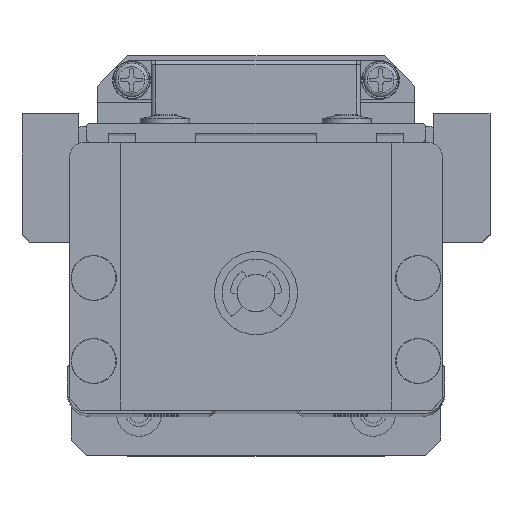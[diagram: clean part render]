
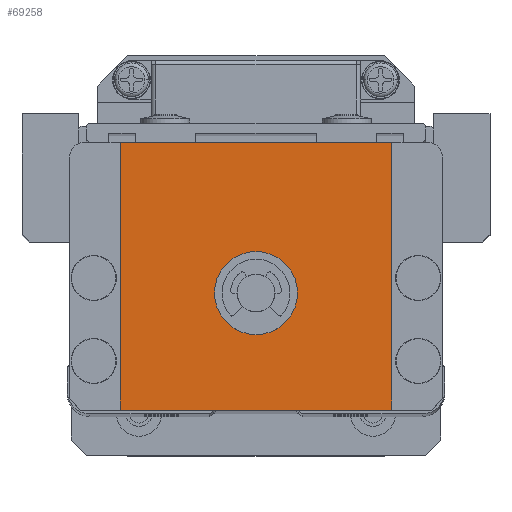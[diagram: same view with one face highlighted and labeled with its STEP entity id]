
A CAD part, top view. The second image highlights one B-rep face of the part: STEP entity #69258.
In plain terms, the highlighted planar face has unit normal (0, 0, 1) as drawn and (1, 0, 0) by its records, which use the part's own axes.
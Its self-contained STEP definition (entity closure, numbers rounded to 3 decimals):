
#531 = CARTESIAN_POINT ( 'NONE',  ( 210., 0., 0. ) ) ;
#1022 = DIRECTION ( 'NONE',  ( 0., 0., 1. ) ) ;
#4802 = LINE ( 'NONE', #54894, #36724 ) ;
#5396 = VECTOR ( 'NONE', #21981, 1000. ) ;
#5533 = CARTESIAN_POINT ( 'NONE',  ( 210., 20., 18. ) ) ;
#5550 = ORIENTED_EDGE ( 'NONE', *, *, #28450, .T. ) ;
#6125 = EDGE_CURVE ( 'NONE', #68393, #53728, #63919, .T. ) ;
#6956 = DIRECTION ( 'NONE',  ( 0., 0., -1. ) ) ;
#8107 = VERTEX_POINT ( 'NONE', #32125 ) ;
#9409 = VERTEX_POINT ( 'NONE', #30914 ) ;
#11109 = DIRECTION ( 'NONE',  ( 0., 0., 1. ) ) ;
#12142 = VECTOR ( 'NONE', #64102, 1000. ) ;
#15363 = ORIENTED_EDGE ( 'NONE', *, *, #36154, .T. ) ;
#18349 = ORIENTED_EDGE ( 'NONE', *, *, #6125, .T. ) ;
#21981 = DIRECTION ( 'NONE',  ( 0., -1., 0. ) ) ;
#22379 = LINE ( 'NONE', #34531, #5396 ) ;
#24777 = CARTESIAN_POINT ( 'NONE',  ( 210., 0., 5.5 ) ) ;
#25038 = AXIS2_PLACEMENT_3D ( 'NONE', #531, #45114, #6956 ) ;
#27181 = CIRCLE ( 'NONE', #53214, 5.5 ) ;
#28263 = VERTEX_POINT ( 'NONE', #77488 ) ;
#28450 = EDGE_CURVE ( 'NONE', #53728, #28263, #22379, .T. ) ;
#30914 = CARTESIAN_POINT ( 'NONE',  ( 210., 0., -5.5 ) ) ;
#32019 = PLANE ( 'NONE',  #25038 ) ;
#32125 = CARTESIAN_POINT ( 'NONE',  ( 210., -15.5, -18. ) ) ;
#33952 = CIRCLE ( 'NONE', #53055, 5.5 ) ;
#34481 = CARTESIAN_POINT ( 'NONE',  ( 210., 20., -18. ) ) ;
#34504 = EDGE_LOOP ( 'NONE', ( #64334, #37417 ) ) ;
#34531 = CARTESIAN_POINT ( 'NONE',  ( 210., 20., 18. ) ) ;
#35609 = CARTESIAN_POINT ( 'NONE',  ( 210., 0., 0. ) ) ;
#36154 = EDGE_CURVE ( 'NONE', #28263, #8107, #82093, .T. ) ;
#36724 = VECTOR ( 'NONE', #61322, 1000. ) ;
#37417 = ORIENTED_EDGE ( 'NONE', *, *, #77962, .T. ) ;
#39237 = DIRECTION ( 'NONE',  ( -1., 0., 0. ) ) ;
#40383 = ORIENTED_EDGE ( 'NONE', *, *, #52374, .T. ) ;
#42022 = DIRECTION ( 'NONE',  ( 0., 0., 1. ) ) ;
#45114 = DIRECTION ( 'NONE',  ( 1., 0., 0. ) ) ;
#52374 = EDGE_CURVE ( 'NONE', #8107, #68393, #4802, .T. ) ;
#53055 = AXIS2_PLACEMENT_3D ( 'NONE', #35609, #80245, #42022 ) ;
#53214 = AXIS2_PLACEMENT_3D ( 'NONE', #77444, #39237, #1022 ) ;
#53555 = VERTEX_POINT ( 'NONE', #24777 ) ;
#53728 = VERTEX_POINT ( 'NONE', #5533 ) ;
#54894 = CARTESIAN_POINT ( 'NONE',  ( 210., -15.5, -18. ) ) ;
#55782 = CARTESIAN_POINT ( 'NONE',  ( 210., 20., -18. ) ) ;
#57663 = CARTESIAN_POINT ( 'NONE',  ( 210., -15.5, 18. ) ) ;
#59875 = EDGE_LOOP ( 'NONE', ( #18349, #5550, #15363, #40383 ) ) ;
#60661 = EDGE_CURVE ( 'NONE', #53555, #9409, #33952, .T. ) ;
#61322 = DIRECTION ( 'NONE',  ( 0., 1., 0. ) ) ;
#63919 = LINE ( 'NONE', #55782, #78878 ) ;
#64102 = DIRECTION ( 'NONE',  ( 0., 0., -1. ) ) ;
#64334 = ORIENTED_EDGE ( 'NONE', *, *, #60661, .T. ) ;
#68393 = VERTEX_POINT ( 'NONE', #34481 ) ;
#69258 = ADVANCED_FACE ( 'NONE', ( #71562, #73578 ), #32019, .T. ) ;
#71562 = FACE_BOUND ( 'NONE', #34504, .T. ) ;
#73578 = FACE_OUTER_BOUND ( 'NONE', #59875, .T. ) ;
#77444 = CARTESIAN_POINT ( 'NONE',  ( 210., 0., 0. ) ) ;
#77488 = CARTESIAN_POINT ( 'NONE',  ( 210., -15.5, 18. ) ) ;
#77962 = EDGE_CURVE ( 'NONE', #9409, #53555, #27181, .T. ) ;
#78878 = VECTOR ( 'NONE', #11109, 1000. ) ;
#80245 = DIRECTION ( 'NONE',  ( -1., 0., 0. ) ) ;
#82093 = LINE ( 'NONE', #57663, #12142 ) ;
